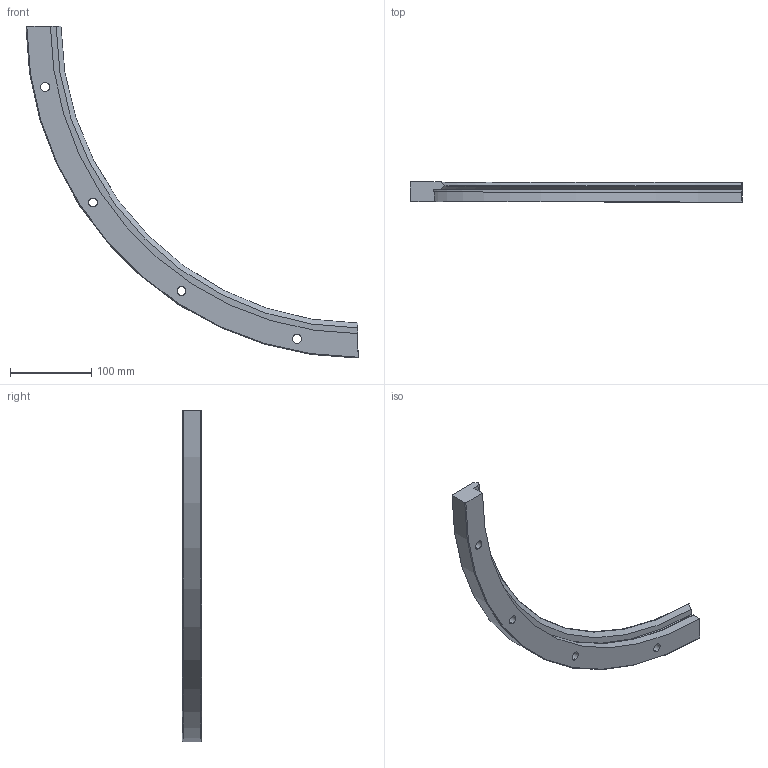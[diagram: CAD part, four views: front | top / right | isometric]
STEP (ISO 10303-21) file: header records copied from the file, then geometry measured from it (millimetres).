
FILE_DESCRIPTION(('STEP AP203'),'1');
FILE_NAME('ril_820_r90.stp','2021-08-30T06:14:09',('TraceParts'),('TraceParts S.A.'),'Spatial InterOp 3D',' ',' ');
FILE_SCHEMA(('CONFIG_CONTROL_DESIGN'));
Length unit declared in the file: millimetre
Products named in the file (1): 1
Bounding box: 408 x 24 x 408 mm (x, y, z)
Volume: 479938.9 mm3; surface area: 83174.5 mm2
Topology: 1 solids, 1 shells, 35 faces, 87 edges, 58 vertices
Faces by surface type: cylinder 19, plane 10, cone 4, torus 2
Entity records: 1146 total; most frequent: CARTESIAN_POINT 225, DIRECTION 192, ORIENTED_EDGE 174, EDGE_CURVE 87, AXIS2_PLACEMENT_3D 81, VERTEX_POINT 58, EDGE_LOOP 47, CIRCLE 45
